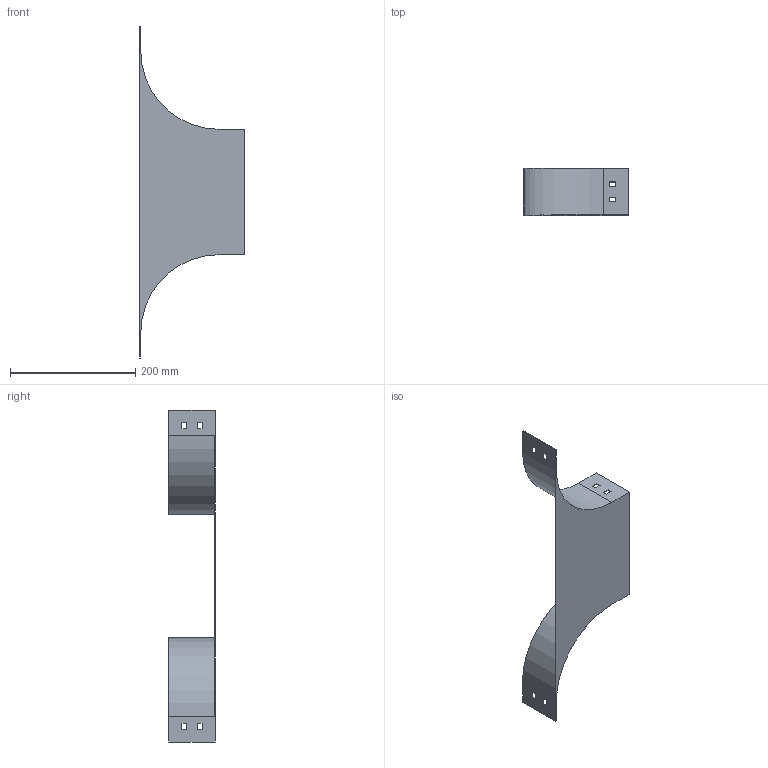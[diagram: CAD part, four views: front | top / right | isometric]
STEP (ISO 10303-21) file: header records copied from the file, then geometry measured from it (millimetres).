
FILE_DESCRIPTION (( 'STEP AP214' ), '1' );
FILE_NAME ('RL_207.step', '2025-07-16T09:25:10', ( '' ), ( '' ), 'SwSTEP 2.0', 'SolidWorks 2023', '' );
FILE_SCHEMA (( 'AUTOMOTIVE_DESIGN' ));
Length unit declared in the file: millimetre
Products named in the file (1): RL_207
Bounding box: 166.5 x 75 x 530 mm (x, y, z)
Volume: 121106.8 mm3; surface area: 164253.3 mm2
Topology: 1 solids, 1 shells, 50 faces, 144 edges, 96 vertices
Faces by surface type: plane 46, cylinder 4
Entity records: 1671 total; most frequent: CARTESIAN_POINT 291, ORIENTED_EDGE 288, DIRECTION 254, EDGE_CURVE 144, LINE 136, VECTOR 136, VERTEX_POINT 96, EDGE_LOOP 66
